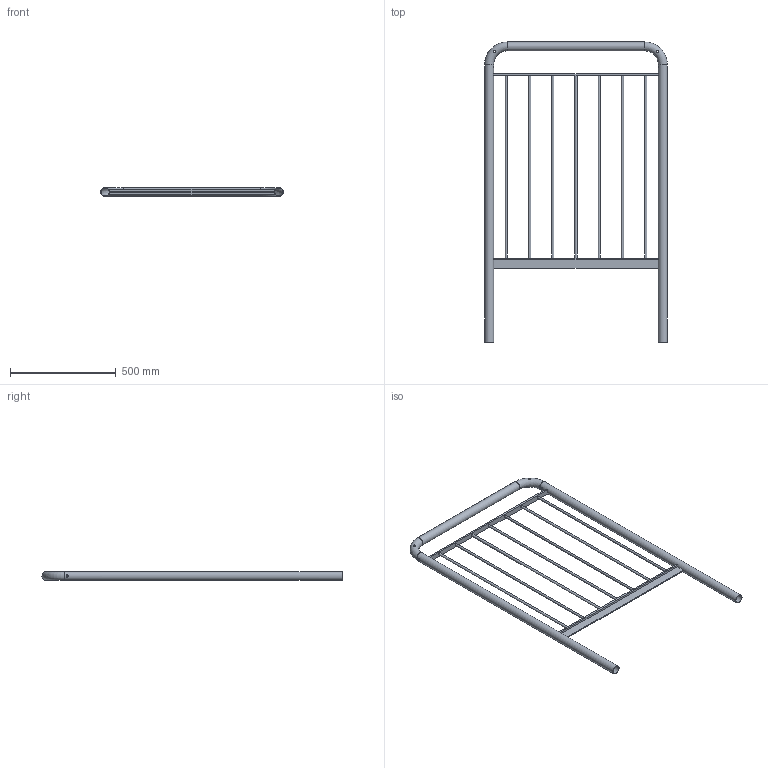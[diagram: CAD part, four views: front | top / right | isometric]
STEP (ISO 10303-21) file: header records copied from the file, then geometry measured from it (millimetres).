
FILE_DESCRIPTION((''),'2;1');
FILE_NAME('S:\Användarkataloger\AndreasA\Mina Inventor filer\Räcken\STEP\modul_bos_900-1400.stp','2010-09-07T13:29:03',('AndreasA'),(''),'Autodesk Inventor 2011','Autodesk Inventor 2011','');
FILE_SCHEMA(('AUTOMOTIVE_DESIGN { 1 0 10303 214 1 1 1 1 }'));
Length unit declared in the file: millimetre
Products named in the file (4): modul_bos_900-1400; handledare_modul_900-1400; galleri_modul_900; pls_modul_bos_900
Assembly tree (3 placements, depth 2):
  modul_bos_900-1400
    handledare_modul_900-1400
    galleri_modul_900
    pls_modul_bos_900
Bounding box: 865.4 x 1421.2 x 42.4 mm (x, y, z)
Volume: 1942536.4 mm3; surface area: 1282627.3 mm2
Topology: 3 solids, 3 shells, 45 faces, 115 edges, 74 vertices
Faces by surface type: cylinder 21, plane 20, torus 4
Full cylindrical faces by diameter (mm): 10 x4, 11 x11, 38.4 x3, 42.4 x3
Entity records: 1997 total; most frequent: CARTESIAN_POINT 912, DIRECTION 192, ORIENTED_EDGE 156, EDGE_LOOP 102, AXIS2_PLACEMENT_3D 78, EDGE_CURVE 78, VERTEX_POINT 66, FACE_BOUND 57
